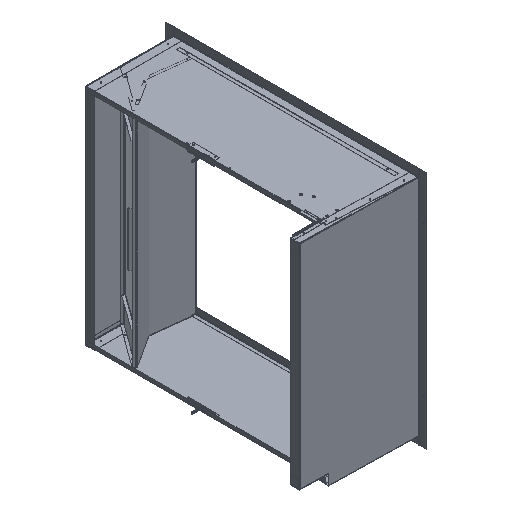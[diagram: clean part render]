
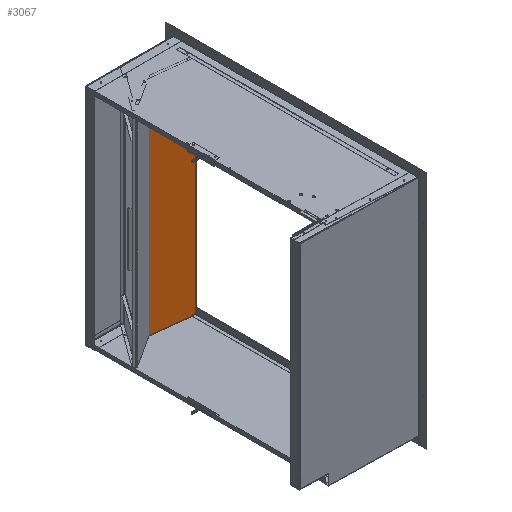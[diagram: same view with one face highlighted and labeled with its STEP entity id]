
A CAD part, isometric view. The second image highlights one B-rep face of the part: STEP entity #3067.
In plain terms, the highlighted planar face has unit normal (-0.122, -0.993, 0) as drawn and (0.643, 0, -0.766) by its records, which use the part's own axes.
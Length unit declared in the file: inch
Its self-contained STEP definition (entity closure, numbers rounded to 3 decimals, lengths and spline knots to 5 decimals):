
#446 = EDGE_CURVE ( 'NONE', #12248, #10551, #23004, .T. ) ;
#1250 = VERTEX_POINT ( 'NONE', #21274 ) ;
#2143 = CARTESIAN_POINT ( 'NONE',  ( -1.65356, 37.37654, -4.6683 ) ) ;
#2529 = VECTOR ( 'NONE', #16132, 39.37008 ) ;
#3067 = ADVANCED_FACE ( 'NONE', ( #26050 ), #8621, .T. ) ;
#3202 = DIRECTION ( 'NONE',  ( 0.766, 0., 0.643 ) ) ;
#4268 = VECTOR ( 'NONE', #4869, 39.37008 ) ;
#4456 = ORIENTED_EDGE ( 'NONE', *, *, #22150, .F. ) ;
#4869 = DIRECTION ( 'NONE',  ( 0.542, 0.707, 0.455 ) ) ;
#4989 = LINE ( 'NONE', #16163, #4268 ) ;
#5256 = CARTESIAN_POINT ( 'NONE',  ( -1.65356, 37.37654, -4.6683 ) ) ;
#5475 = CARTESIAN_POINT ( 'NONE',  ( -2.17139, -3.98891, -5.1028 ) ) ;
#5753 = VECTOR ( 'NONE', #28827, 39.37008 ) ;
#6019 = CARTESIAN_POINT ( 'NONE',  ( -1.65356, -3.98891, -4.6683 ) ) ;
#6058 = LINE ( 'NONE', #16910, #23341 ) ;
#6608 = ORIENTED_EDGE ( 'NONE', *, *, #6771, .F. ) ;
#6771 = EDGE_CURVE ( 'NONE', #10551, #12077, #14517, .T. ) ;
#6934 = EDGE_CURVE ( 'NONE', #12077, #1250, #4989, .T. ) ;
#7104 = CARTESIAN_POINT ( 'NONE',  ( -1.65356, -4.12756, -4.6683 ) ) ;
#7295 = EDGE_CURVE ( 'NONE', #25838, #25906, #7777, .T. ) ;
#7509 = DIRECTION ( 'NONE',  ( 0., -1., 0. ) ) ;
#7777 = LINE ( 'NONE', #8759, #13048 ) ;
#7847 = LINE ( 'NONE', #26282, #25127 ) ;
#7951 = DIRECTION ( 'NONE',  ( 0., 1., 0. ) ) ;
#8245 = VERTEX_POINT ( 'NONE', #2143 ) ;
#8277 = EDGE_LOOP ( 'NONE', ( #10735, #11266, #6608, #14426, #4456, #21229, #9978, #8780, #23540, #10186 ) ) ;
#8621 = PLANE ( 'NONE',  #17648 ) ;
#8759 = CARTESIAN_POINT ( 'NONE',  ( 3.91405, 37.51519, 0.00349 ) ) ;
#8780 = ORIENTED_EDGE ( 'NONE', *, *, #10639, .F. ) ;
#9019 = LINE ( 'NONE', #18217, #20274 ) ;
#9348 = LINE ( 'NONE', #18924, #15344 ) ;
#9978 = ORIENTED_EDGE ( 'NONE', *, *, #17028, .F. ) ;
#10186 = ORIENTED_EDGE ( 'NONE', *, *, #21927, .F. ) ;
#10551 = VERTEX_POINT ( 'NONE', #7104 ) ;
#10639 = EDGE_CURVE ( 'NONE', #25838, #8245, #28765, .T. ) ;
#10735 = ORIENTED_EDGE ( 'NONE', *, *, #26120, .F. ) ;
#11266 = ORIENTED_EDGE ( 'NONE', *, *, #6934, .F. ) ;
#12077 = VERTEX_POINT ( 'NONE', #19701 ) ;
#12248 = VERTEX_POINT ( 'NONE', #6019 ) ;
#12770 = EDGE_CURVE ( 'NONE', #25049, #28738, #6058, .T. ) ;
#13048 = VECTOR ( 'NONE', #17689, 39.37008 ) ;
#13076 = CARTESIAN_POINT ( 'NONE',  ( -1.65356, -4.70388, -4.6683 ) ) ;
#13163 = CARTESIAN_POINT ( 'NONE',  ( 3.91405, -4.11441, 0.00349 ) ) ;
#14426 = ORIENTED_EDGE ( 'NONE', *, *, #446, .F. ) ;
#14517 = LINE ( 'NONE', #23033, #2529 ) ;
#15344 = VECTOR ( 'NONE', #3202, 39.37008 ) ;
#15414 = DIRECTION ( 'NONE',  ( -0.766, 0., -0.643 ) ) ;
#16132 = DIRECTION ( 'NONE',  ( 0.766, 0., 0.643 ) ) ;
#16163 = CARTESIAN_POINT ( 'NONE',  ( 3.91405, -4.11441, 0.00349 ) ) ;
#16733 = VECTOR ( 'NONE', #26945, 39.37008 ) ;
#16910 = CARTESIAN_POINT ( 'NONE',  ( -2.17139, -4.11441, -5.1028 ) ) ;
#17028 = EDGE_CURVE ( 'NONE', #8245, #28738, #28712, .T. ) ;
#17281 = DIRECTION ( 'NONE',  ( 0., 1., 0. ) ) ;
#17648 = AXIS2_PLACEMENT_3D ( 'NONE', #13163, #28915, #15414 ) ;
#17689 = DIRECTION ( 'NONE',  ( 0.766, 0., 0.643 ) ) ;
#17850 = CARTESIAN_POINT ( 'NONE',  ( -2.63178, 37.37654, -5.48912 ) ) ;
#18217 = CARTESIAN_POINT ( 'NONE',  ( 3.91405, 37.50204, 0.00349 ) ) ;
#18924 = CARTESIAN_POINT ( 'NONE',  ( -2.63178, -3.98891, -5.48912 ) ) ;
#19701 = CARTESIAN_POINT ( 'NONE',  ( 3.90398, -4.12756, -0.00497 ) ) ;
#20274 = VECTOR ( 'NONE', #20486, 39.37008 ) ;
#20486 = DIRECTION ( 'NONE',  ( -0.542, 0.707, -0.455 ) ) ;
#20855 = CARTESIAN_POINT ( 'NONE',  ( -1.65356, 37.51519, -4.6683 ) ) ;
#21229 = ORIENTED_EDGE ( 'NONE', *, *, #12770, .T. ) ;
#21274 = CARTESIAN_POINT ( 'NONE',  ( 3.90711, -4.12347, -0.00234 ) ) ;
#21927 = EDGE_CURVE ( 'NONE', #22954, #25906, #9019, .T. ) ;
#22150 = EDGE_CURVE ( 'NONE', #25049, #12248, #9348, .T. ) ;
#22954 = VERTEX_POINT ( 'NONE', #26741 ) ;
#23004 = LINE ( 'NONE', #13076, #5753 ) ;
#23033 = CARTESIAN_POINT ( 'NONE',  ( 3.91405, -4.12756, 0.00349 ) ) ;
#23341 = VECTOR ( 'NONE', #7951, 39.37008 ) ;
#23343 = CARTESIAN_POINT ( 'NONE',  ( 3.90398, 37.51519, -0.00497 ) ) ;
#23540 = ORIENTED_EDGE ( 'NONE', *, *, #7295, .T. ) ;
#25049 = VERTEX_POINT ( 'NONE', #5475 ) ;
#25127 = VECTOR ( 'NONE', #17281, 39.37008 ) ;
#25838 = VERTEX_POINT ( 'NONE', #20855 ) ;
#25906 = VERTEX_POINT ( 'NONE', #23343 ) ;
#26050 = FACE_OUTER_BOUND ( 'NONE', #8277, .T. ) ;
#26120 = EDGE_CURVE ( 'NONE', #1250, #22954, #7847, .T. ) ;
#26282 = CARTESIAN_POINT ( 'NONE',  ( 3.90711, -4.11441, -0.00234 ) ) ;
#26741 = CARTESIAN_POINT ( 'NONE',  ( 3.90711, 37.51111, -0.00234 ) ) ;
#26945 = DIRECTION ( 'NONE',  ( -0.766, 0., -0.643 ) ) ;
#27097 = CARTESIAN_POINT ( 'NONE',  ( -2.17139, 37.37654, -5.1028 ) ) ;
#28086 = VECTOR ( 'NONE', #7509, 39.37008 ) ;
#28712 = LINE ( 'NONE', #17850, #16733 ) ;
#28738 = VERTEX_POINT ( 'NONE', #27097 ) ;
#28765 = LINE ( 'NONE', #5256, #28086 ) ;
#28827 = DIRECTION ( 'NONE',  ( 0., -1., 0. ) ) ;
#28915 = DIRECTION ( 'NONE',  ( 0.643, 0., -0.766 ) ) ;
